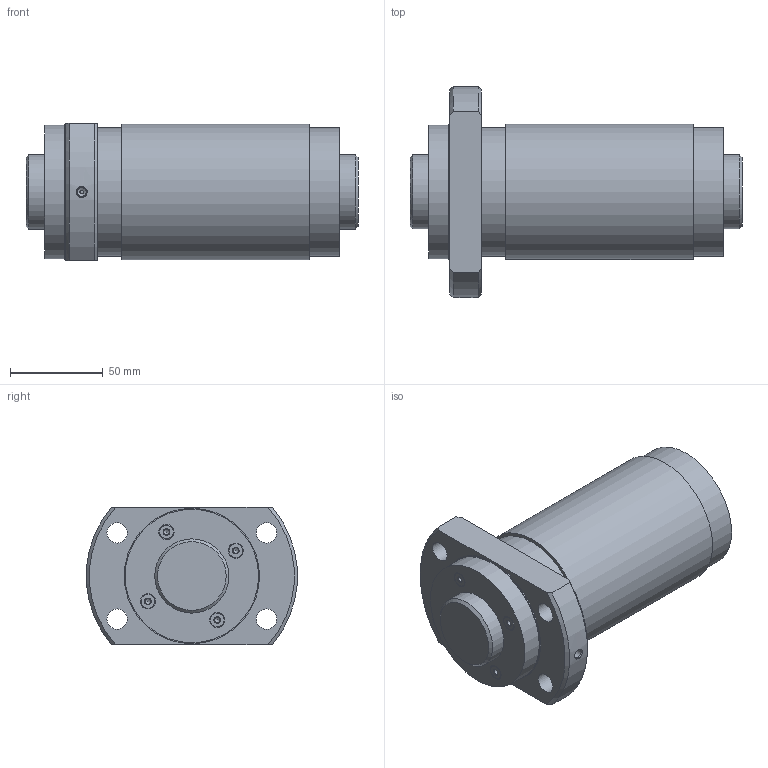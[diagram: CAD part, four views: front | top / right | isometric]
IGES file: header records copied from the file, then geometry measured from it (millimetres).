
Start section: Data from Parasolid IGES Translator 26.0.171, Copyright(c) 2006 Siemens PLM Software. All Rights Reserved.
Global section: file name: WGF4080-3G1+179LC3_0_13_0_0.igs; native system: By Siemens PLM Incorporated; preprocessor: XPlus GENERIC/IGES 26.0.171; author: Noname; organization: Noname; date: 20250116.062713; units: millimetre
Bounding box: 179 x 113.82 x 74 mm (x, y, z)
Surface area: 100276.5 mm2 (no closed solid volume)
Topology: 0 solids, 0 shells, 65 faces, 262 edges, 206 vertices
Faces by surface type: revolution 46, extrusion 19
